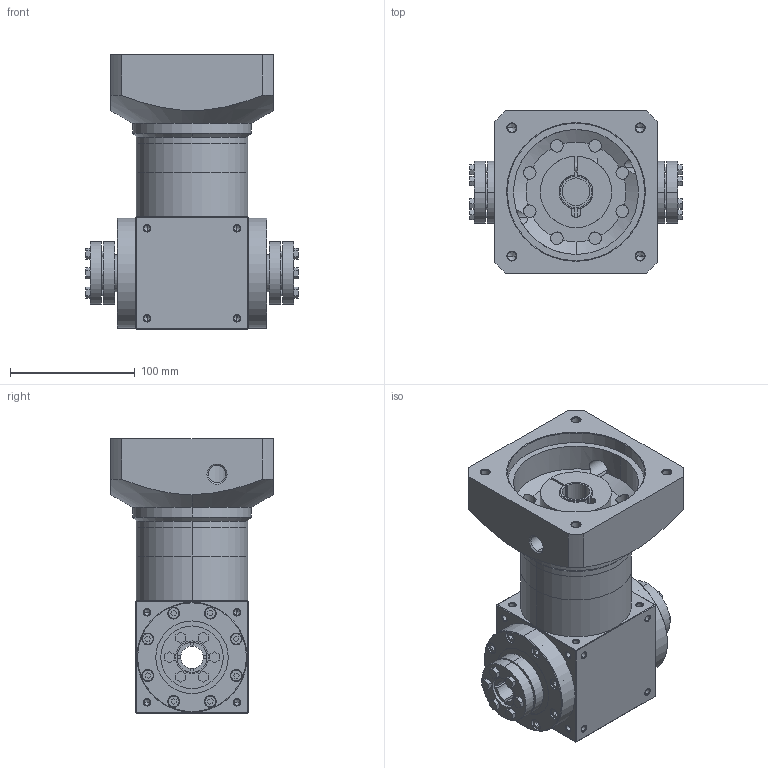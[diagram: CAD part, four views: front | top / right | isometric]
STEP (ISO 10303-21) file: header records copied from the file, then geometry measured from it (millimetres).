
FILE_DESCRIPTION (( 'STEP AP203' ), '1' );
FILE_NAME ('AT090-L2-22-110-145M8.STEP', '2025-12-03T09:05:28', ( 'Windows User' ), ( 'P R C' ), 'SwSTEP 2.0', 'SolidWorks 2016', '' );
FILE_SCHEMA (( 'CONFIG_CONTROL_DESIGN' ));
Length unit declared in the file: millimetre
Products named in the file (8): 输入轴套-24-22; AT090-L2-22-110-145M8; AT90-蛌褒眊极-謂-怀堤-FC; AT90-坶踡攫-謂-24-FC; AT90蛌倰怀堤楊擘; AT90单级齿圈; AT90输入法兰-F-110-M8-145; 输入胀套-27
Assembly tree (8 placements, depth 2):
  AT090-L2-22-110-145M8
    AT90-蛌褒眊极-謂-怀堤-FC
    AT90-坶踡攫-謂-24-FC  x2
    AT90蛌倰怀堤楊擘
    AT90单级齿圈
    AT90输入法兰-F-110-M8-145
    输入胀套-27
    输入轴套-24-22
Bounding box: 170 x 130 x 220 mm (x, y, z)
Volume: 1620916.4 mm3; surface area: 280032.9 mm2
Topology: 8 solids, 20 shells, 1533 faces, 3905 edges, 2470 vertices
Faces by surface type: plane 805, cylinder 364, cone 232, bspline 132
Entity records: 52709 total; most frequent: CARTESIAN_POINT 17750, ORIENTED_EDGE 7266, DIRECTION 6609, EDGE_CURVE 3633, LINE 2371, VECTOR 2371, VERTEX_POINT 2350, AXIS2_PLACEMENT_3D 2119
